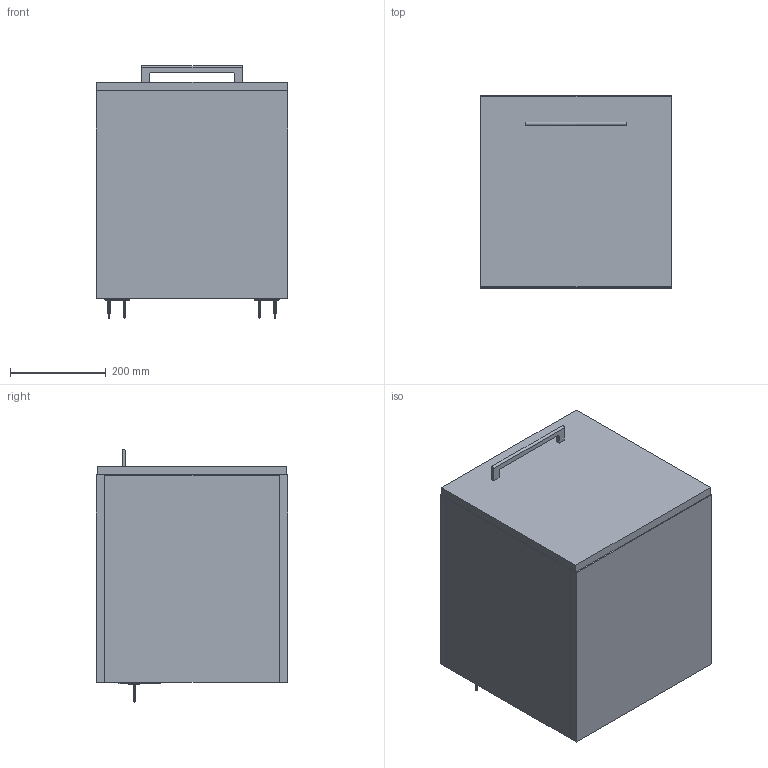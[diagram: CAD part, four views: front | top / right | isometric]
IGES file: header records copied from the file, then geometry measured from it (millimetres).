
Global section: file name: 3D Dosyası,; native system: Autodesk Inventor 2024; preprocessor: unknown; author: pc11; date: 20250709.163650; units: millimetre
Bounding box: 399 x 400 x 527.38 mm (x, y, z)
Volume: 21236381.8 mm3; surface area: 3722641.1 mm2
Topology: 44 solids, 48 shells, 1526 faces, 4288 edges, 2898 vertices
Faces by surface type: bspline 1526
